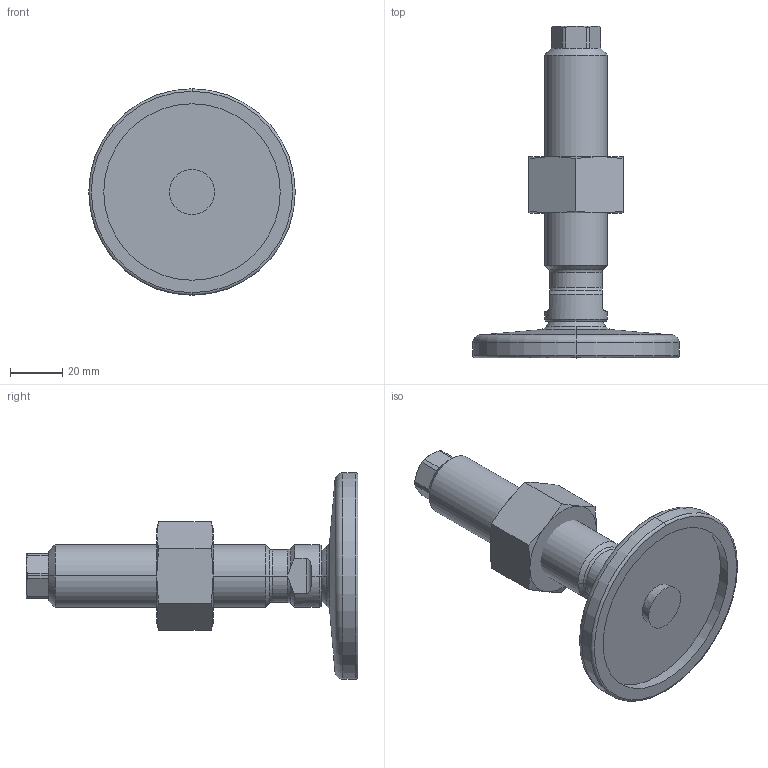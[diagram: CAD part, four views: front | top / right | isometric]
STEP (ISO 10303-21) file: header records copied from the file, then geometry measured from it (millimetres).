
FILE_DESCRIPTION (( 'STEP AP214' ), '1' );
FILE_NAME ('21-80-M24-100-D0-VK.step', '2020-10-02T17:36:09', ( '' ), ( '' ), 'SwSTEP 2.0', 'SolidWorks 2019', '' );
FILE_SCHEMA (( 'AUTOMOTIVE_DESIGN' ));
Length unit declared in the file: millimetre
Products named in the file (4): 21-80-M24-100-D0-VK; WB21_Fußteller 21^WB21_V_D0-080-R14-B9 (M24); WB4032^WB21_V_M24; WB21_Spindel_V^WB21_V_M24-100
Assembly tree (3 placements, depth 2):
  21-80-M24-100-D0-VK
    WB21_Fußteller 21^WB21_V_D0-080-R14-B9 (M24)
    WB21_Spindel_V^WB21_V_M24-100
    WB4032^WB21_V_M24
Bounding box: 79 x 126.9 x 79 mm (x, y, z)
Volume: 96652.6 mm3; surface area: 27910.7 mm2
Topology: 3 solids, 3 shells, 101 faces, 225 edges, 133 vertices
Faces by surface type: cone 33, plane 29, cylinder 25, torus 10, sphere 4
Entity records: 3176 total; most frequent: CARTESIAN_POINT 749, DIRECTION 492, ORIENTED_EDGE 450, EDGE_CURVE 225, AXIS2_PLACEMENT_3D 212, VERTEX_POINT 133, EDGE_LOOP 106, CIRCLE 105
